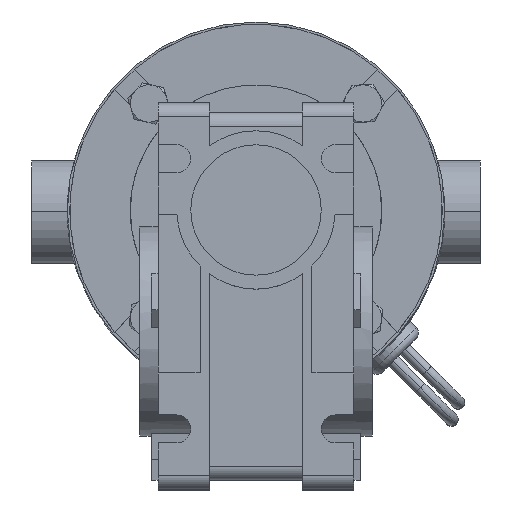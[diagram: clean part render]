
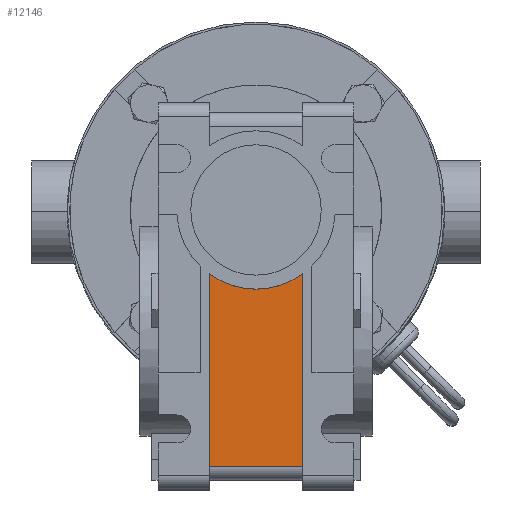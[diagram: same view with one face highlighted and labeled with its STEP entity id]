
A CAD part, top view. The second image highlights one B-rep face of the part: STEP entity #12146.
In plain terms, the highlighted planar face has unit normal (0, 0, 1).
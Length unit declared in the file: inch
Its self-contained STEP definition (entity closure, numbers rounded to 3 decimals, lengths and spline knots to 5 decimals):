
#1935 = DIRECTION ( 'NONE',  ( 0., -1., 0. ) ) ;
#1936 = VECTOR ( 'NONE', #1935, 39.37008 ) ;
#1937 = CARTESIAN_POINT ( 'NONE',  ( 0.3937, -0.54125, 3.46898 ) ) ;
#1938 = LINE ( 'NONE', #1937, #1936 ) ;
#1939 = CARTESIAN_POINT ( 'NONE',  ( 0.3937, -2.16535, 3.46898 ) ) ;
#1940 = DIRECTION ( 'NONE',  ( 1., 0., 0. ) ) ;
#1941 = VECTOR ( 'NONE', #1940, 39.37008 ) ;
#1942 = CARTESIAN_POINT ( 'NONE',  ( 0.3937, -2.16535, 3.46898 ) ) ;
#1943 = LINE ( 'NONE', #1942, #1941 ) ;
#1944 = CARTESIAN_POINT ( 'NONE',  ( -0.3937, -2.16535, 3.46898 ) ) ;
#1945 = DIRECTION ( 'NONE',  ( 0., 1., 0. ) ) ;
#1946 = VECTOR ( 'NONE', #1945, 39.37008 ) ;
#1947 = CARTESIAN_POINT ( 'NONE',  ( -0.3937, -2.3622, 3.46898 ) ) ;
#1948 = LINE ( 'NONE', #1947, #1946 ) ;
#1961 = DIRECTION ( 'NONE',  ( 1., 0., 0. ) ) ;
#1962 = DIRECTION ( 'NONE',  ( 0., 0., 1. ) ) ;
#1963 = CARTESIAN_POINT ( 'NONE',  ( 0., 0., 3.46898 ) ) ;
#1964 = AXIS2_PLACEMENT_3D ( 'NONE', #1963, #1962, #1961 ) ;
#1965 = CIRCLE ( 'NONE', #1964, 0.66929 ) ;
#1967 = CARTESIAN_POINT ( 'NONE',  ( -0.3937, -0.54125, 3.46898 ) ) ;
#2053 = DIRECTION ( 'NONE',  ( 0., 0., 1. ) ) ;
#2054 = AXIS2_PLACEMENT_3D ( 'NONE', #2055, #2053, #2112 ) ;
#2055 = CARTESIAN_POINT ( 'NONE',  ( 0., 0., 3.46898 ) ) ;
#2056 = PLANE ( 'NONE',  #2054 ) ;
#2057 = FACE_OUTER_BOUND ( 'NONE', #12147, .T. ) ;
#2062 = CARTESIAN_POINT ( 'NONE',  ( 0.3937, -0.54125, 3.46898 ) ) ;
#2112 = DIRECTION ( 'NONE',  ( 0., 1., 0. ) ) ;
#12066 = ORIENTED_EDGE ( 'NONE', *, *, #12067, .F. ) ;
#12067 = EDGE_CURVE ( 'NONE', #12068, #12087, #1948, .T. ) ;
#12068 = VERTEX_POINT ( 'NONE', #1944 ) ;
#12069 = ORIENTED_EDGE ( 'NONE', *, *, #12070, .T. ) ;
#12070 = EDGE_CURVE ( 'NONE', #12068, #12071, #1943, .T. ) ;
#12071 = VERTEX_POINT ( 'NONE', #1939 ) ;
#12072 = ORIENTED_EDGE ( 'NONE', *, *, #12073, .F. ) ;
#12073 = EDGE_CURVE ( 'NONE', #12143, #12071, #1938, .T. ) ;
#12074 = ORIENTED_EDGE ( 'NONE', *, *, #12089, .F. ) ;
#12087 = VERTEX_POINT ( 'NONE', #1967 ) ;
#12089 = EDGE_CURVE ( 'NONE', #12087, #12143, #1965, .T. ) ;
#12143 = VERTEX_POINT ( 'NONE', #2062 ) ;
#12146 = ADVANCED_FACE ( 'NONE', ( #2057 ), #2056, .T. ) ;
#12147 = EDGE_LOOP ( 'NONE', ( #12066, #12069, #12072, #12074 ) ) ;
